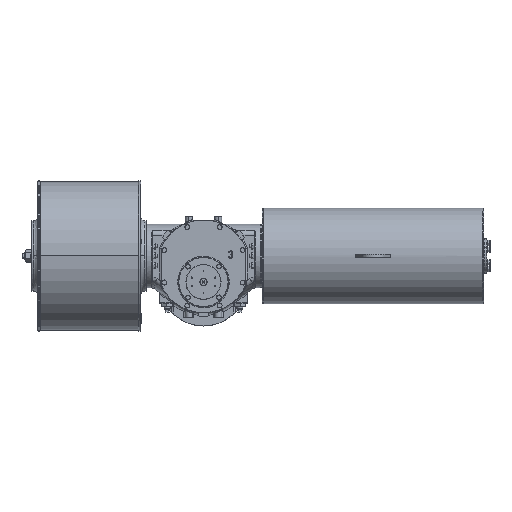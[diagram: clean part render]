
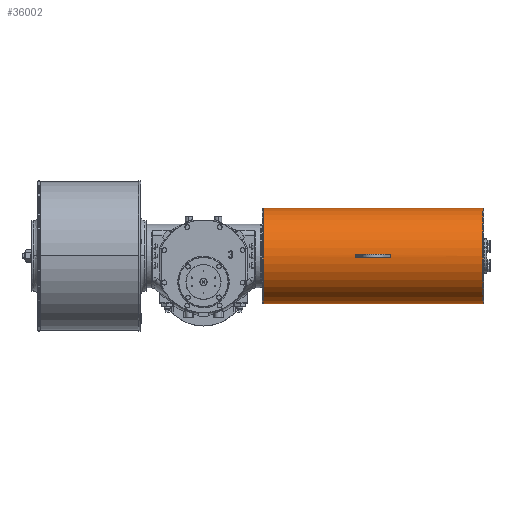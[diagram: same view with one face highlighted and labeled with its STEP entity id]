
A CAD part, top view. The second image highlights one B-rep face of the part: STEP entity #36002.
In plain terms, the highlighted cylindrical face has radius 162.5 mm (diameter 325 mm), a partial arc.
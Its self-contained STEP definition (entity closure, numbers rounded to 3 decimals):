
#262 = LINE ( 'NONE', #35512, #17625 ) ;
#1588 = DIRECTION ( 'NONE',  ( -1., 0., 0. ) ) ;
#2872 = DIRECTION ( 'NONE',  ( 1., 0., 0. ) ) ;
#2899 = CYLINDRICAL_SURFACE ( 'NONE', #70406, 162.5 ) ;
#3266 = DIRECTION ( 'NONE',  ( 1., 0., 0. ) ) ;
#3655 = FACE_OUTER_BOUND ( 'NONE', #48564, .T. ) ;
#3847 = CARTESIAN_POINT ( 'NONE',  ( 954., -127., 74.5 ) ) ;
#4203 = EDGE_CURVE ( 'NONE', #69672, #43622, #15808, .T. ) ;
#4862 = CIRCLE ( 'NONE', #29548, 162.5 ) ;
#5535 = CIRCLE ( 'NONE', #47592, 162.5 ) ;
#5550 = VERTEX_POINT ( 'NONE', #31663 ) ;
#5564 = ORIENTED_EDGE ( 'NONE', *, *, #7810, .T. ) ;
#6998 = CARTESIAN_POINT ( 'NONE',  ( 519.5, 35.5, 74.5 ) ) ;
#7381 = DIRECTION ( 'NONE',  ( 0., 1., 0. ) ) ;
#7810 = EDGE_CURVE ( 'NONE', #64908, #68566, #56322, .T. ) ;
#9469 = EDGE_LOOP ( 'NONE', ( #30160, #58314, #66472, #5564, #42433, #29271 ) ) ;
#10254 = ORIENTED_EDGE ( 'NONE', *, *, #4203, .T. ) ;
#11229 = CARTESIAN_POINT ( 'NONE',  ( 519.5, 35.5, 74.5 ) ) ;
#13376 = CARTESIAN_POINT ( 'NONE',  ( 639.5, 35.5, 74.5 ) ) ;
#13730 = DIRECTION ( 'NONE',  ( 0., 1., 0. ) ) ;
#13762 = DIRECTION ( 'NONE',  ( 1., 0., 0. ) ) ;
#14643 = AXIS2_PLACEMENT_3D ( 'NONE', #33440, #27257, #50883 ) ;
#15794 = EDGE_CURVE ( 'NONE', #20098, #64908, #4862, .T. ) ;
#15808 = CIRCLE ( 'NONE', #59112, 162.5 ) ;
#17576 = CIRCLE ( 'NONE', #68363, 162.5 ) ;
#17625 = VECTOR ( 'NONE', #18062, 1000. ) ;
#18062 = DIRECTION ( 'NONE',  ( 1., 0., 0. ) ) ;
#19620 = EDGE_CURVE ( 'NONE', #48715, #50904, #24826, .T. ) ;
#20098 = VERTEX_POINT ( 'NONE', #58053 ) ;
#20667 = CARTESIAN_POINT ( 'NONE',  ( 208., 40.5, 236.923 ) ) ;
#21768 = DIRECTION ( 'NONE',  ( 1., 0., 0. ) ) ;
#22218 = VERTEX_POINT ( 'NONE', #3847 ) ;
#22856 = DIRECTION ( 'NONE',  ( 0., 1., 0. ) ) ;
#24826 = CIRCLE ( 'NONE', #37161, 162.5 ) ;
#26117 = DIRECTION ( 'NONE',  ( 0., -1., 0. ) ) ;
#26431 = CARTESIAN_POINT ( 'NONE',  ( 519.5, 30.5, 236.923 ) ) ;
#27257 = DIRECTION ( 'NONE',  ( -1., 0., 0. ) ) ;
#27267 = DIRECTION ( 'NONE',  ( 1., 0., 0. ) ) ;
#29112 = CARTESIAN_POINT ( 'NONE',  ( 519.5, 40.5, 236.923 ) ) ;
#29271 = ORIENTED_EDGE ( 'NONE', *, *, #19620, .T. ) ;
#29548 = AXIS2_PLACEMENT_3D ( 'NONE', #11229, #64319, #22856 ) ;
#30160 = ORIENTED_EDGE ( 'NONE', *, *, #46758, .F. ) ;
#30175 = EDGE_CURVE ( 'NONE', #68566, #48715, #17576, .T. ) ;
#30988 = EDGE_CURVE ( 'NONE', #43622, #22218, #262, .T. ) ;
#31088 = CARTESIAN_POINT ( 'NONE',  ( 639.5, 40.5, 236.923 ) ) ;
#31663 = CARTESIAN_POINT ( 'NONE',  ( 954., 198., 74.5 ) ) ;
#33440 = CARTESIAN_POINT ( 'NONE',  ( 954., 35.5, 74.5 ) ) ;
#34585 = CARTESIAN_POINT ( 'NONE',  ( 205., 198., 74.5 ) ) ;
#35121 = EDGE_CURVE ( 'NONE', #22218, #5550, #46808, .T. ) ;
#35512 = CARTESIAN_POINT ( 'NONE',  ( 208., -127., 74.5 ) ) ;
#36002 = ADVANCED_FACE ( 'NONE', ( #68748, #3655 ), #2899, .T. ) ;
#37161 = AXIS2_PLACEMENT_3D ( 'NONE', #57386, #51943, #26117 ) ;
#37532 = EDGE_CURVE ( 'NONE', #64046, #20098, #5535, .T. ) ;
#39206 = LINE ( 'NONE', #62852, #55516 ) ;
#42433 = ORIENTED_EDGE ( 'NONE', *, *, #30175, .T. ) ;
#43622 = VERTEX_POINT ( 'NONE', #54949 ) ;
#43825 = CARTESIAN_POINT ( 'NONE',  ( 639.5, 30.5, 236.923 ) ) ;
#44670 = ORIENTED_EDGE ( 'NONE', *, *, #30988, .T. ) ;
#46758 = EDGE_CURVE ( 'NONE', #64046, #50904, #55914, .T. ) ;
#46808 = CIRCLE ( 'NONE', #14643, 162.5 ) ;
#47592 = AXIS2_PLACEMENT_3D ( 'NONE', #6998, #1588, #7381 ) ;
#48564 = EDGE_LOOP ( 'NONE', ( #10254, #44670, #51446, #49922 ) ) ;
#48609 = CARTESIAN_POINT ( 'NONE',  ( 205., 35.5, 74.5 ) ) ;
#48715 = VERTEX_POINT ( 'NONE', #53884 ) ;
#49922 = ORIENTED_EDGE ( 'NONE', *, *, #62067, .F. ) ;
#50131 = CARTESIAN_POINT ( 'NONE',  ( 208., 35.5, 74.5 ) ) ;
#50883 = DIRECTION ( 'NONE',  ( 0., 1., 0. ) ) ;
#50895 = DIRECTION ( 'NONE',  ( 0., 1., 0. ) ) ;
#50904 = VERTEX_POINT ( 'NONE', #43825 ) ;
#51446 = ORIENTED_EDGE ( 'NONE', *, *, #35121, .T. ) ;
#51943 = DIRECTION ( 'NONE',  ( 1., 0., 0. ) ) ;
#53884 = CARTESIAN_POINT ( 'NONE',  ( 639.5, 35.5, 237. ) ) ;
#54949 = CARTESIAN_POINT ( 'NONE',  ( 205., -127., 74.5 ) ) ;
#55516 = VECTOR ( 'NONE', #21768, 1000. ) ;
#55914 = LINE ( 'NONE', #61372, #56113 ) ;
#56113 = VECTOR ( 'NONE', #2872, 1000. ) ;
#56322 = LINE ( 'NONE', #20667, #75622 ) ;
#57386 = CARTESIAN_POINT ( 'NONE',  ( 639.5, 35.5, 74.5 ) ) ;
#58053 = CARTESIAN_POINT ( 'NONE',  ( 519.5, 35.5, 237. ) ) ;
#58314 = ORIENTED_EDGE ( 'NONE', *, *, #37532, .T. ) ;
#59112 = AXIS2_PLACEMENT_3D ( 'NONE', #48609, #60252, #13730 ) ;
#60252 = DIRECTION ( 'NONE',  ( 1., 0., 0. ) ) ;
#61372 = CARTESIAN_POINT ( 'NONE',  ( 208., 30.5, 236.923 ) ) ;
#62067 = EDGE_CURVE ( 'NONE', #69672, #5550, #39206, .T. ) ;
#62852 = CARTESIAN_POINT ( 'NONE',  ( 208., 198., 74.5 ) ) ;
#64046 = VERTEX_POINT ( 'NONE', #26431 ) ;
#64319 = DIRECTION ( 'NONE',  ( -1., 0., 0. ) ) ;
#64908 = VERTEX_POINT ( 'NONE', #29112 ) ;
#65334 = DIRECTION ( 'NONE',  ( 0., -1., 0. ) ) ;
#66472 = ORIENTED_EDGE ( 'NONE', *, *, #15794, .T. ) ;
#68363 = AXIS2_PLACEMENT_3D ( 'NONE', #13376, #13762, #65334 ) ;
#68566 = VERTEX_POINT ( 'NONE', #31088 ) ;
#68748 = FACE_BOUND ( 'NONE', #9469, .T. ) ;
#69672 = VERTEX_POINT ( 'NONE', #34585 ) ;
#70406 = AXIS2_PLACEMENT_3D ( 'NONE', #50131, #27267, #50895 ) ;
#75622 = VECTOR ( 'NONE', #3266, 1000. ) ;
